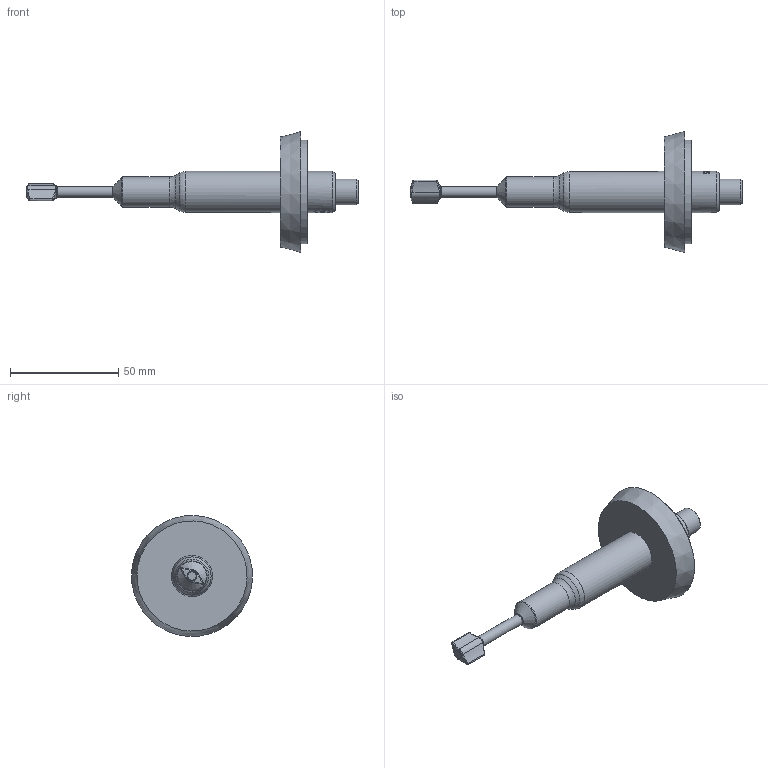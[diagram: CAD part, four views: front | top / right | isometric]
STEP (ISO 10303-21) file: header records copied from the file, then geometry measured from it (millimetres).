
FILE_DESCRIPTION(/* description */ ('Unknown'),/* implementation_level */ '2;1');
FILE_NAME(/* name */ 'SRD-SLP-A117-BH40',/* time_stamp */ '2023-10-26T16:14:20-05:00',/* author */ ('Unknown'),/* organization */ ('Unknown'),/* preprocessor_version */ 'ST-DEVELOPER v16.7',/* originating_system */ 'Solid Edge',/* authorisation */ 'Unknown');
FILE_SCHEMA (('AUTOMOTIVE_DESIGN {1 0 10303 214 3 1 1}'));
Length unit declared in the file: millimetre
Products named in the file (1): SRD-SLP-A117-BH40
Bounding box: 153.52 x 55.97 x 55.97 mm (x, y, z)
Volume: 49848.2 mm3; surface area: 12893.4 mm2
Topology: 1 solids, 1 shells, 201 faces, 510 edges, 330 vertices
Faces by surface type: bspline 92, cylinder 44, plane 35, cone 14, torus 8, sphere 8
Full cylindrical faces by diameter (mm): 0.8 x8, 5.019 x1, 8 x1, 12 x1, 13.9 x1, 19 x2, 48 x1
Entity records: 10885 total; most frequent: CARTESIAN_POINT 5562, ORIENTED_EDGE 892, DIRECTION 555, EDGE_CURVE 446, VERTEX_POINT 303, EDGE_LOOP 257, FACE_BOUND 257, B_SPLINE_CURVE_WITH_KNOTS 211
